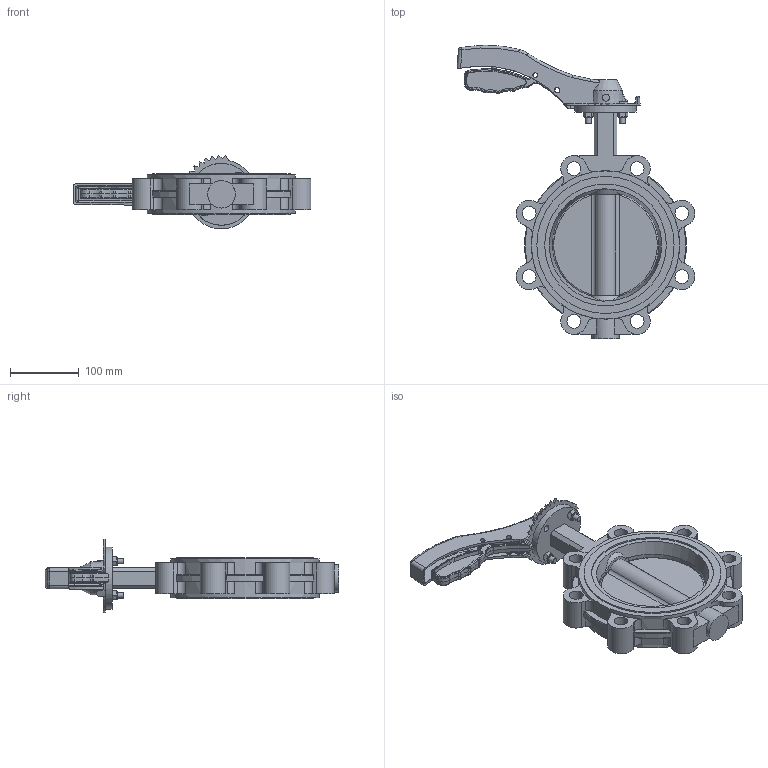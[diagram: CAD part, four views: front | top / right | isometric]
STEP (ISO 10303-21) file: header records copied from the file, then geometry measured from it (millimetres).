
FILE_DESCRIPTION (( 'STEP AP214' ), '1' );
FILE_NAME ('忒梟 等標評概Fig3240-150-16.STEP', '2026-03-20T07:03:20', ( '' ), ( '' ), 'SwSTEP 2.0', 'SolidWorks 2024', '' );
FILE_SCHEMA (( 'AUTOMOTIVE_DESIGN' ));
Length unit declared in the file: millimetre
Products named in the file (1): 手柄 单夹蝶阀Fig3240-150-16
Bounding box: 345.35 x 425.89 x 107.39 mm (x, y, z)
Volume: 1838349.6 mm3; surface area: 316178.1 mm2
Topology: 1 solids, 9 shells, 1213 faces, 3408 edges, 2247 vertices
Faces by surface type: plane 781, cylinder 197, bspline 132, cone 75, torus 28
Full cylindrical faces by diameter (mm): 6.303 x1, 6.618 x3, 7.816 x2, 8 x4, 10 x4, 10.085 x1, 11.856 x2, 15.4 x2, 19.1 x1, 20 x8, 24.708 x1, 28 x1, 40 x1, 90 x1, 176.7 x2, 181.2 x1, 199.2 x2, 215.2 x2
Entity records: 62786 total; most frequent: CARTESIAN_POINT 20264, ORIENTED_EDGE 6622, DIRECTION 5113, EDGE_CURVE 3311, VERTEX_POINT 2211, LINE 2089, VECTOR 2089, AXIS2_PLACEMENT_3D 1512
